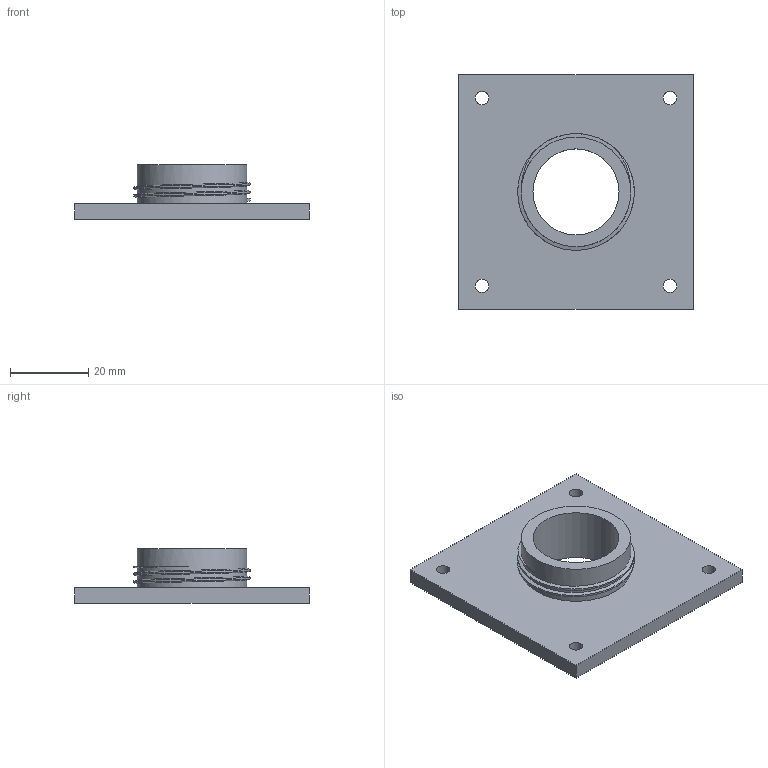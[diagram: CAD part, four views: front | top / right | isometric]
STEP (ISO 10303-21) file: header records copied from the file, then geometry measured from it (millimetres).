
FILE_DESCRIPTION(('Open CASCADE Model'),'2;1');
FILE_NAME('Open CASCADE Shape Model','2026-10-21T16:53:56',('Author'),( 'Open CASCADE'),'Open CASCADE STEP processor 7.9','Open CASCADE 7.9' ,'Unknown');
FILE_SCHEMA(('AUTOMOTIVE_DESIGN { 1 0 10303 214 1 1 1 1 }'));
Length unit declared in the file: millimetre
Products named in the file (1): Open CASCADE STEP translator 7.9 34
Bounding box: 60 x 60 x 14 mm (x, y, z)
Volume: 15218.3 mm3; surface area: 9660.3 mm2
Topology: 1 solids, 1 shells, 20 faces, 49 edges, 32 vertices
Faces by surface type: plane 9, cylinder 8, bspline 3
Full cylindrical faces by diameter (mm): 3.4 x4, 22 x1, 28 x3
Entity records: 2960 total; most frequent: CARTESIAN_POINT 2015, DIRECTION 150, ORIENTED_EDGE 98, PCURVE 98, DEFINITIONAL_REPRESENTATION 98, LINE 86, VECTOR 86, EDGE_CURVE 49
